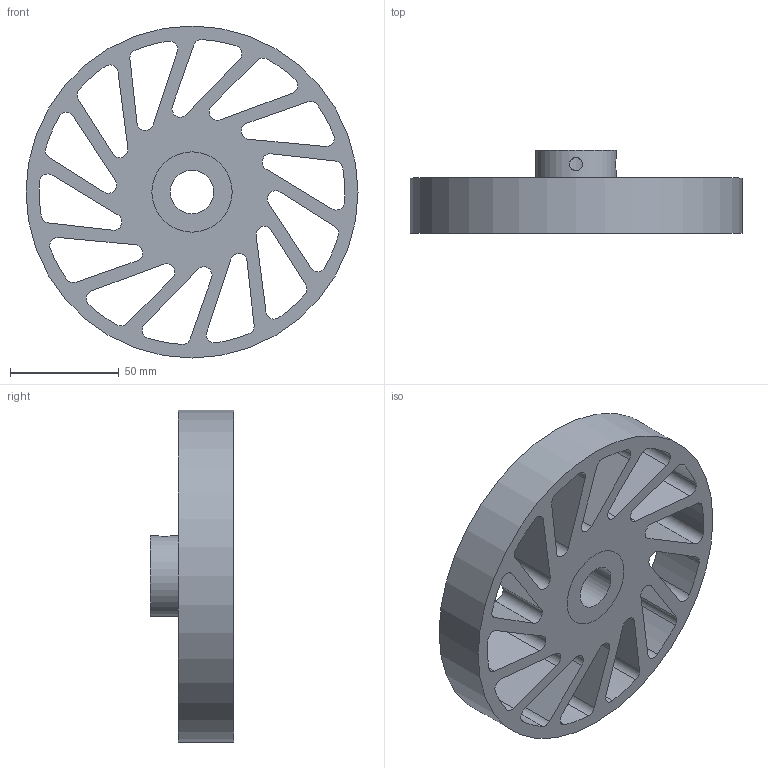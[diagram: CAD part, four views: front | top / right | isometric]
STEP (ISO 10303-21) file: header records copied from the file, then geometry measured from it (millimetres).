
FILE_DESCRIPTION(/* description */ (''),/* implementation_level */ '2;1');
FILE_NAME(/* name */ 'NCWM-570-XXX-YYY.stp',/* time_stamp */ '2023-02-02T16:49:53-06:00',/* author */ ('AG'),/* organization */ ('Meridian Laboratory'),/* preprocessor_version */ 'ST-DEVELOPER v18.1',/* originating_system */ 'Autodesk Inventor 2022',/* authorisation */ '');
FILE_SCHEMA (('AUTOMOTIVE_DESIGN { 1 0 10303 214 3 1 1 }'));
Length unit declared in the file: millimetre
Products named in the file (1): NCWM-540
Bounding box: 152.4 x 38.1 x 152.4 mm (x, y, z)
Volume: 260853.2 mm3; surface area: 78840.3 mm2
Topology: 2 solids, 2 shells, 94 faces, 276 edges, 186 vertices
Faces by surface type: cylinder 62, plane 32
Full cylindrical faces by diameter (mm): 6 x2, 20.025 x1, 36.83 x2, 152.4 x1
Entity records: 3516 total; most frequent: CARTESIAN_POINT 697, DIRECTION 576, ORIENTED_EDGE 552, EDGE_CURVE 276, AXIS2_PLACEMENT_3D 215, VERTEX_POINT 186, LINE 146, VECTOR 146
